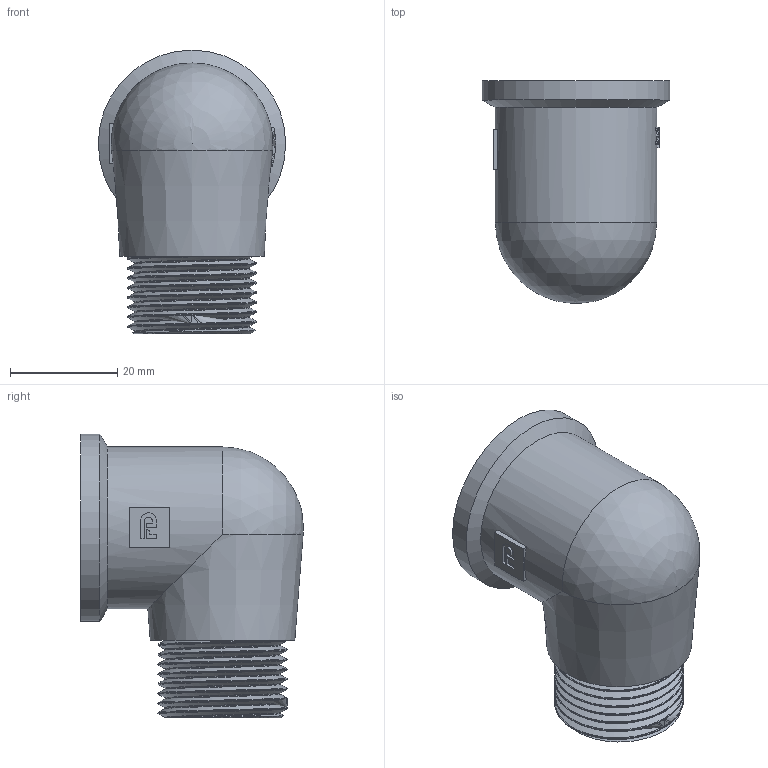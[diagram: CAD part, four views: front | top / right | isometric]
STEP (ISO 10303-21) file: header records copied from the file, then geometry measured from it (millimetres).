
FILE_DESCRIPTION(/* description */ (''),/* implementation_level */ '2;1');
FILE_NAME(/* name */ 'C:\Users\Doom\Desktop\Фадотех\Резьба\U12C 18.03.2020\U12C 18.03.2020.stp',/* time_stamp */ '2022-01-21T23:26:22+02:00',/* author */ ('Doom'),/* organization */ (''),/* preprocessor_version */ 'ST-DEVELOPER v18',/* originating_system */ 'Autodesk Inventor 2020',/* authorisation */ '');
FILE_SCHEMA (('AUTOMOTIVE_DESIGN { 1 0 10303 214 3 1 1 }'));
Length unit declared in the file: millimetre
Products named in the file (1): U11C 18.03.2020
Bounding box: 35 x 41.6 x 53 mm (x, y, z)
Volume: 15798.8 mm3; surface area: 17176.1 mm2
Topology: 3 solids, 3 shells, 140 faces, 379 edges, 253 vertices
Faces by surface type: plane 64, bspline 35, cylinder 34, cone 4, sphere 3
Full cylindrical faces by diameter (mm): 20 x1, 21.42 x2, 23.75 x8, 24.11 x7, 24.5 x1, 26.44 x2, 27 x1, 30.2 x1, 35 x1
Entity records: 13691 total; most frequent: CARTESIAN_POINT 10360, ORIENTED_EDGE 748, DIRECTION 570, EDGE_CURVE 374, VERTEX_POINT 251, AXIS2_PLACEMENT_3D 206, LINE 158, VECTOR 158
